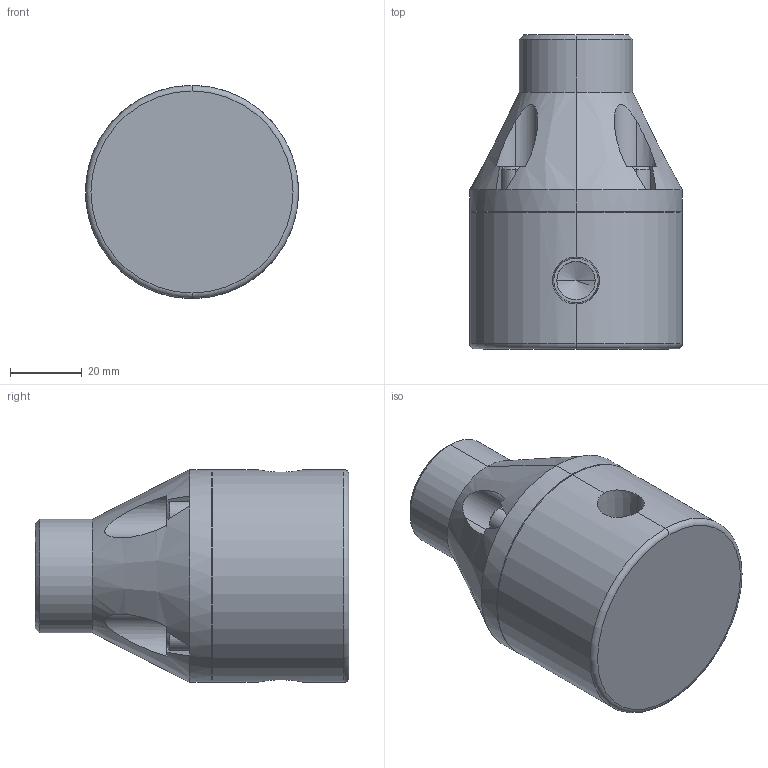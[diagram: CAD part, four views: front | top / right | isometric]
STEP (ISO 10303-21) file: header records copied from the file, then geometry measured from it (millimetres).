
FILE_DESCRIPTION (( 'STEP AP203' ), '1' );
FILE_NAME ('MBP0250-BSPT.STEP', '2015-03-17T10:18:45', ( 'Dan Bernard' ), ( '' ), 'SwSTEP 2.0', 'SolidWorks 2008', '' );
FILE_SCHEMA (( 'CONFIG_CONTROL_DESIGN' ));
Length unit declared in the file: inch
Products named in the file (1): MBP0250-BSPT
Bounding box: 59.44 x 87.63 x 59.44 mm (x, y, z)
Volume: 173452.2 mm3; surface area: 24199.7 mm2
Topology: 1 solids, 1 shells, 126 faces, 304 edges, 190 vertices
Faces by surface type: plane 70, cylinder 30, cone 24, torus 2
Entity records: 4053 total; most frequent: CARTESIAN_POINT 1019, DIRECTION 624, ORIENTED_EDGE 600, EDGE_CURVE 300, AXIS2_PLACEMENT_3D 219, VERTEX_POINT 190, VECTOR 186, LINE 186
